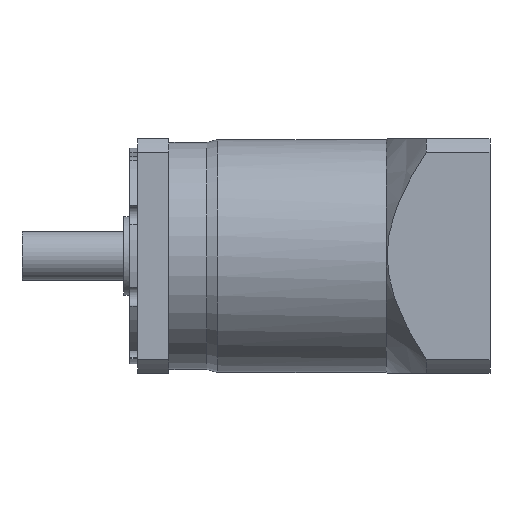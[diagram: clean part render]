
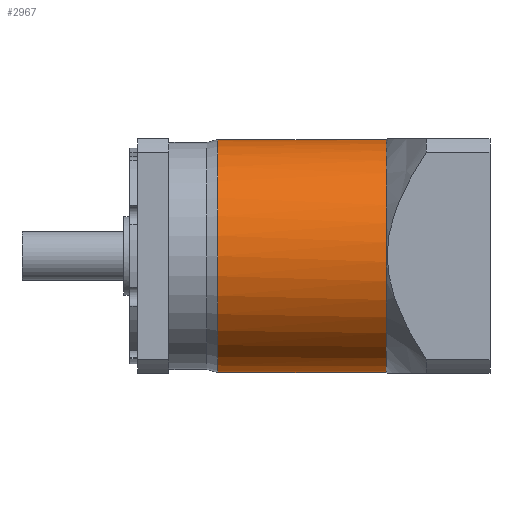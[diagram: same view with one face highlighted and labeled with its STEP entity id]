
A CAD part, front view. The second image highlights one B-rep face of the part: STEP entity #2967.
In plain terms, the highlighted cylindrical face has radius 59.5 mm (diameter 119 mm), a full revolution.
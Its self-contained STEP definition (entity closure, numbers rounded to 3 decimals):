
#2488=FACE_BOUND('',#3522,.T.);
#2489=FACE_BOUND('',#3523,.T.);
#2967=ADVANCED_FACE('',(#2488,#2489),#3257,.T.);
#3257=CYLINDRICAL_SURFACE('',#7094,59.5);
#3522=EDGE_LOOP('',(#4418));
#3523=EDGE_LOOP('',(#4419));
#4418=ORIENTED_EDGE('',*,*,#6139,.T.);
#4419=ORIENTED_EDGE('',*,*,#6140,.T.);
#5630=VERTEX_POINT('',#9247);
#5631=VERTEX_POINT('',#9249);
#6139=EDGE_CURVE('',#5630,#5630,#6750,.T.);
#6140=EDGE_CURVE('',#5631,#5631,#6751,.T.);
#6750=CIRCLE('',#7092,59.5);
#6751=CIRCLE('',#7093,59.5);
#7092=AXIS2_PLACEMENT_3D('',#9246,#7789,#7790);
#7093=AXIS2_PLACEMENT_3D('',#9248,#7791,#7792);
#7094=AXIS2_PLACEMENT_3D('',#9250,#7793,#7794);
#7789=DIRECTION('',(1.,0.,0.));
#7790=DIRECTION('',(0.,1.,0.));
#7791=DIRECTION('',(-1.,0.,0.));
#7792=DIRECTION('',(0.,1.,0.));
#7793=DIRECTION('',(1.,0.,0.));
#7794=DIRECTION('',(0.,1.,0.));
#9246=CARTESIAN_POINT('',(0.,0.,0.));
#9247=CARTESIAN_POINT('',(0.,59.5,0.));
#9248=CARTESIAN_POINT('',(86.,0.,0.));
#9249=CARTESIAN_POINT('',(86.,59.5,0.));
#9250=CARTESIAN_POINT('',(-45.,0.,0.));
